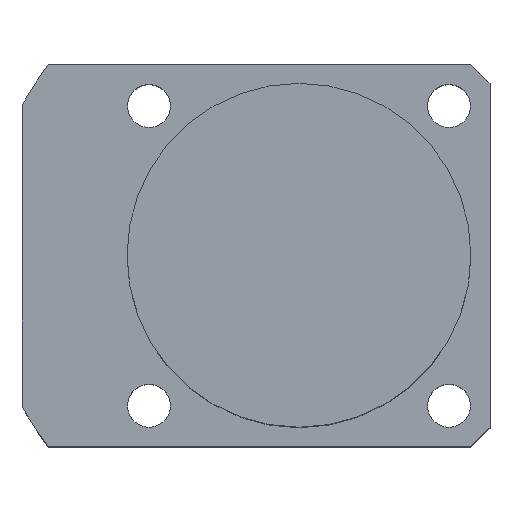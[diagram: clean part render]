
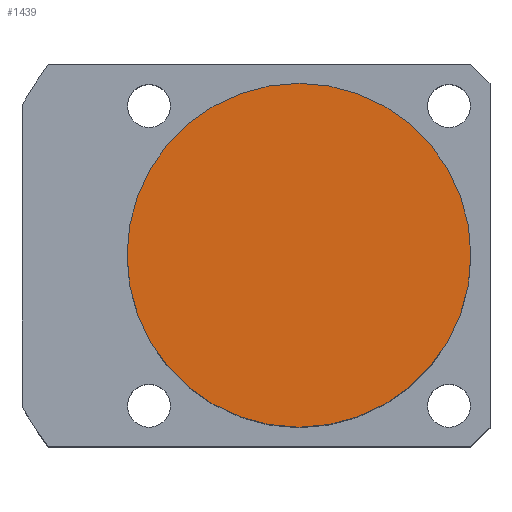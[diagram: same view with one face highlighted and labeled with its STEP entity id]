
A CAD part, top view. The second image highlights one B-rep face of the part: STEP entity #1439.
In plain terms, the highlighted planar face has unit normal (0, 0, 1).
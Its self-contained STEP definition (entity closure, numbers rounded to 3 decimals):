
#1383=CARTESIAN_POINT('',(0.0,-18.0,43.5));
#1384=VERTEX_POINT('',#1383);
#1391=CARTESIAN_POINT('',(-0.0,18.0,43.5));
#1392=VERTEX_POINT('',#1391);
#1393=CARTESIAN_POINT('',(0.0,0.0,43.5));
#1394=DIRECTION('',(0.0,0.0,1.0));
#1395=DIRECTION('',(1.0,0.0,0.0));
#1396=AXIS2_PLACEMENT_3D('',#1393,#1394,#1395);
#1397=CIRCLE('',#1396,18.0);
#1398=EDGE_CURVE('no 1907',#1392,#1384,#1397,.T.);
#1415=CARTESIAN_POINT('',(18.0,0.0,43.5));
#1416=VERTEX_POINT('',#1415);
#1417=CARTESIAN_POINT('',(0.0,0.0,43.5));
#1418=DIRECTION('',(0.0,0.0,1.0));
#1419=DIRECTION('',(1.0,0.0,0.0));
#1420=AXIS2_PLACEMENT_3D('',#1417,#1418,#1419);
#1421=CIRCLE('',#1420,18.0);
#1422=EDGE_CURVE('no 1922',#1416,#1392,#1421,.T.);
#1423=ORIENTED_EDGE('',*,*,#1422,.T.);
#1424=ORIENTED_EDGE('',*,*,#1398,.T.);
#1425=CARTESIAN_POINT('',(0.0,0.0,43.5));
#1426=DIRECTION('',(0.0,0.0,1.0));
#1427=DIRECTION('',(1.0,0.0,0.0));
#1428=AXIS2_PLACEMENT_3D('',#1425,#1426,#1427);
#1429=CIRCLE('',#1428,18.0);
#1430=EDGE_CURVE('no 1928',#1384,#1416,#1429,.T.);
#1431=ORIENTED_EDGE('',*,*,#1430,.T.);
#1432=EDGE_LOOP('',(#1423,#1424,#1431));
#1433=FACE_OUTER_BOUND('',#1432,.T.);
#1434=CARTESIAN_POINT('',(0.0,0.0,43.5));
#1435=DIRECTION('',(0.0,0.0,1.0));
#1436=DIRECTION('',(1.0,0.0,0.0));
#1437=AXIS2_PLACEMENT_3D('',#1434,#1435,#1436);
#1438=PLANE('',#1437);
#1439=ADVANCED_FACE('no 1915',(#1433),#1438,.T.);
